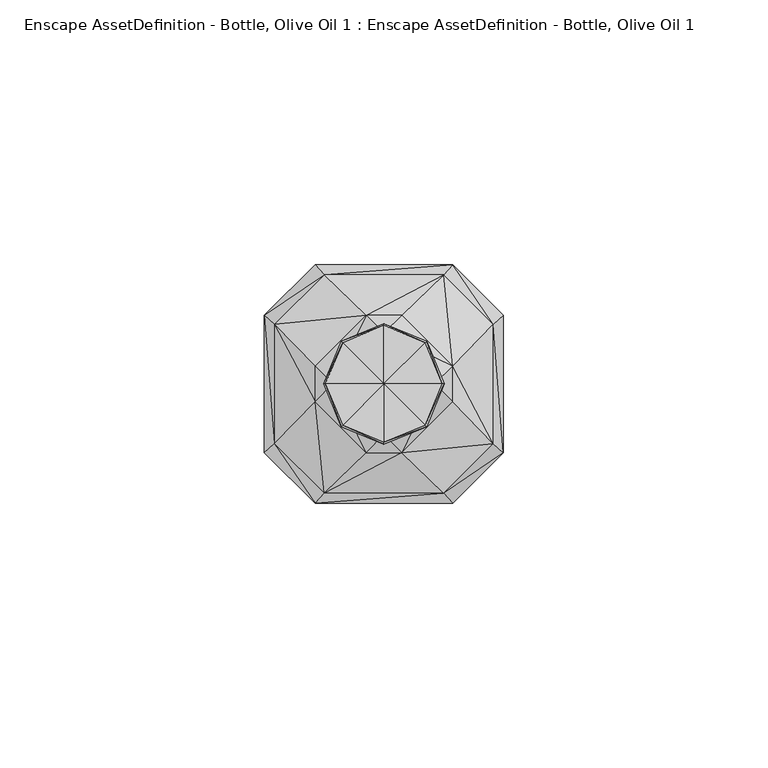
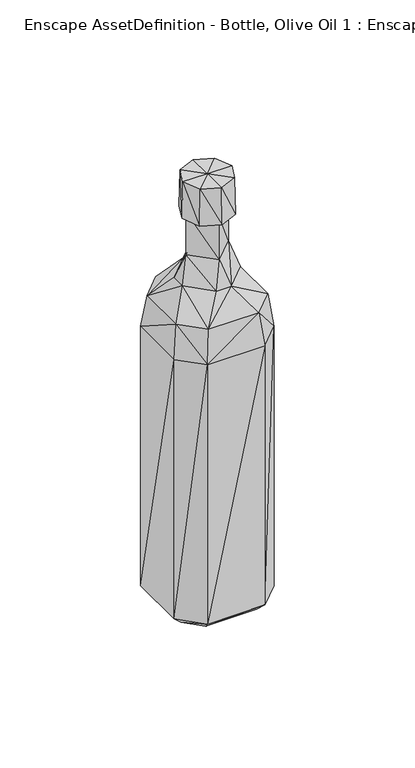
"""IFC4 building model written with IfcOpenShell, lengths in millimetres: geographic element geometry, Enscape AssetDefinition - Bottle, Olive Oil 1 : Enscape AssetDefinition - Bottle, Olive Oil 1."""

from ifc_helpers import new_model, si_unit, origin, place, context, project, spatial, faceted_brep, source, transform, mapped, element, save


def enscape_assetdefinition_bottle_olive_oil_1_enscape_0cd1fce3(model_context):
    return source(origin(), model_context, "Body", "Brep", [
        faceted_brep([(11.2868343, -20.6909925, 142.4815506), (-13.0088441, -22.5893892, 127.4394989), (13.0088441, -22.5893892, 127.4394989), (-11.2868343, -20.6909925, 142.4815506), (-22.5893892, -13.0202314, 4.0525221), (-13.0202314, -22.5893892, 4.0525221), (-22.5893892, -13.0088441, 127.4394989), (-20.6909925, -11.2868343, 142.4815506), (-22.5893892, 13.0202314, 4.0525221), (-18.5141843, -11.3967424, 0.0), (-18.5141843, 11.3967424, 0.0), (13.0202314, -22.5893892, 4.0525221), (-11.3967424, -18.5141843, 0.0), (-11.3967424, 18.5141843, 0.0), (-22.5893892, 13.0088441, 127.4394989), (-13.0202314, 22.5893892, 4.0525221), (-20.6909925, 11.2868343, 142.4815506), (-13.0088441, 22.5893892, 127.4394989), (-11.2868343, 20.6909925, 142.4815506), (13.0202314, 22.5893892, 4.0525221), (11.3967424, 18.5141843, 0.0), (13.0088441, 22.5893892, 127.4394989), (-3.3832565, 13.0130854, 153.2884091), (11.2868343, 20.6909925, 142.4815506), (22.5893892, 13.0202314, 4.0525221), (22.5893892, 13.0088441, 127.4394989), (20.6909925, 11.2868343, 142.4815506), (18.5141843, 11.3967424, 0.0), (18.5141843, -11.3967424, 0.0), (22.5893892, -13.0202314, 4.0525221), (22.5893892, -13.0088441, 127.4394989), (20.6909925, -11.2868343, 142.4815506), (13.0130854, 3.3832565, 153.2884091), (11.3967424, -18.5141843, 0.0), (13.0130854, -3.3832565, 153.2884091), (3.3832565, -13.0130854, 153.2884091), (-3.3832565, -13.0130854, 153.2884091), (0.0, -9.6345777, 164.8254842), (9.6345777, 0.0, 164.8254842), (0.0, 9.6345777, 164.8254842), (9.6345777, 0.0, 185.2709502), (0.0, -9.6345777, 185.2709502), (-9.6345777, 0.0, 164.8254842), (-9.6345777, 0.0, 185.2709502), (-13.0130854, -3.3832565, 153.2884091), (-13.0130854, 3.3832565, 153.2884091), (0.0, 9.6345777, 185.2709502), (3.3832565, 13.0130854, 153.2884091)], [[[0, 1, 2]], [[3, 1, 0]], [[1, 4, 5]], [[6, 4, 1]], [[1, 5, 2]], [[1, 7, 6]], [[3, 7, 1]], [[6, 8, 4]], [[4, 9, 5]], [[4, 10, 9]], [[8, 10, 4]], [[2, 5, 11]], [[5, 9, 12]], [[12, 11, 5]], [[9, 13, 12]], [[13, 9, 10]], [[8, 13, 10]], [[14, 8, 6]], [[15, 13, 8]], [[14, 15, 8]], [[7, 14, 6]], [[16, 14, 7]], [[17, 15, 14]], [[14, 18, 17]], [[16, 18, 14]], [[17, 19, 15]], [[20, 15, 19]], [[13, 15, 20]], [[21, 19, 17]], [[18, 21, 17]], [[22, 23, 18]], [[23, 21, 18]], [[16, 22, 18]], [[21, 24, 19]], [[25, 24, 21]], [[21, 26, 25]], [[23, 26, 21]], [[19, 27, 20]], [[24, 27, 19]], [[27, 13, 20]], [[27, 24, 28]], [[28, 13, 27]], [[25, 29, 24]], [[28, 24, 29]], [[26, 30, 25]], [[30, 29, 25]], [[31, 30, 26]], [[32, 31, 26]], [[23, 32, 26]], [[30, 11, 29]], [[2, 11, 30]], [[30, 0, 2]], [[31, 0, 30]], [[29, 33, 28]], [[11, 33, 29]], [[33, 13, 28]], [[12, 13, 33]], [[33, 11, 12]], [[34, 31, 32]], [[31, 35, 0]], [[34, 35, 31]], [[35, 3, 0]], [[36, 35, 37]], [[36, 3, 35]], [[35, 38, 37]], [[34, 38, 35]], [[34, 32, 38]], [[38, 32, 39]], [[38, 39, 40]], [[41, 38, 40]], [[37, 38, 41]], [[37, 42, 36]], [[43, 37, 41]], [[42, 37, 43]], [[36, 42, 44]], [[36, 44, 3]], [[3, 44, 7]], [[45, 44, 42]], [[44, 16, 7]], [[45, 16, 44]], [[42, 22, 45]], [[39, 22, 42]], [[43, 39, 42]], [[46, 39, 43]], [[43, 40, 46]], [[41, 40, 43]], [[40, 39, 46]], [[47, 22, 39]], [[39, 32, 47]], [[47, 23, 22]], [[45, 22, 16]], [[47, 32, 23]]]),
        faceted_brep([(8.0742482, 8.0742482, 182.7780157), (0.0, 0.0, 182.7780157), (0.0, 11.4186872, 182.7780157), (11.4186872, 0.0, 182.7780157), (-8.0742482, 8.0742482, 182.7780157), (-11.4186872, 0.0, 182.7780157), (-8.0742482, -8.0742482, 182.7780157), (0.0, -11.4186872, 182.7780157), (8.0742482, -8.0742482, 182.7780157), (11.0685872, 0.0, 200.000003), (7.8266794, -7.8266794, 200.000003), (0.0, -11.0685872, 200.000003), (-7.8266794, -7.8266794, 200.000003), (-11.0685872, 0.0, 200.000003), (0.0, 0.0, 200.000003), (7.8266794, 7.8266794, 200.000003), (0.0, 11.0685872, 200.000003), (-7.8266794, 7.8266794, 200.000003)], [[[0, 1, 2]], [[3, 1, 0]], [[4, 1, 5]], [[2, 1, 4]], [[5, 1, 6]], [[6, 1, 7]], [[7, 1, 8]], [[8, 1, 3]], [[0, 9, 3]], [[3, 10, 8]], [[9, 10, 3]], [[8, 11, 7]], [[10, 11, 8]], [[7, 12, 6]], [[11, 12, 7]], [[6, 13, 5]], [[12, 13, 6]], [[14, 13, 12]], [[12, 11, 14]], [[14, 11, 10]], [[14, 10, 9]], [[15, 9, 0]], [[9, 15, 14]], [[15, 16, 14]], [[17, 13, 14]], [[16, 17, 14]], [[13, 17, 5]], [[16, 4, 17]], [[5, 17, 4]], [[15, 2, 16]], [[2, 4, 16]], [[0, 2, 15]]]),
    ])


if __name__ == "__main__":
    model = new_model("IFC4")
    model_context = context("Model", 3, world=origin())
    ifc_project = project(units=[si_unit("LENGTHUNIT", "METRE", prefix="MILLI")], contexts=[model_context])
    site = spatial("IfcSite", under=ifc_project)
    building = spatial("IfcBuilding", under=site)
    placement = place(None, origin())
    enscape_assetdefinition_bottle_olive_oil_1_enscape_shape = enscape_assetdefinition_bottle_olive_oil_1_enscape_0cd1fce3(model_context)
    element("IfcGeographicElement", 1, ObjectType="Enscape AssetDefinition - Bottle, Olive Oil 1 : Enscape AssetDefinition - Bottle, Olive Oil 1", at=placement, inside=building, context=model_context, shape_type="MappedRepresentation", body=[
        mapped(enscape_assetdefinition_bottle_olive_oil_1_enscape_shape, transform((0.0, 0.0, 0.0), x_axis=(1.0, 0.0, 0.0), y_axis=(0.0, 1.0, 0.0), z_axis=(0.0, 0.0, 1.0))),
    ])
    save(model, "model.ifc")
